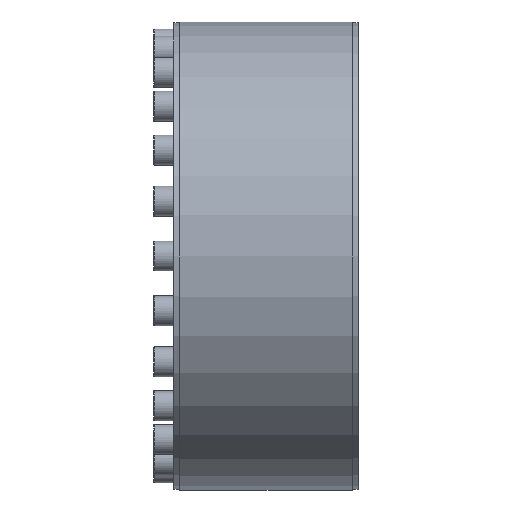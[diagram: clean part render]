
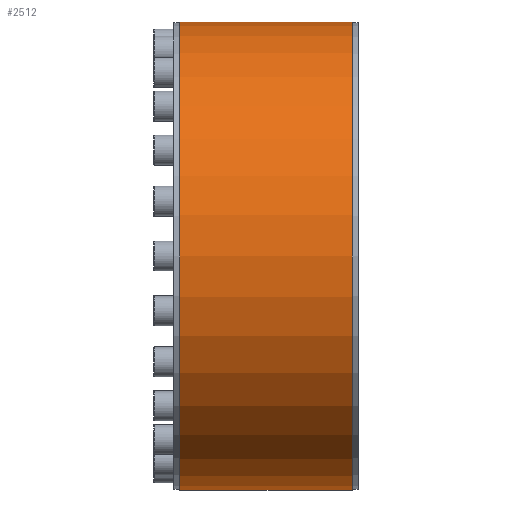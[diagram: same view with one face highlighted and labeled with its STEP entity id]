
A CAD part, left-side view. The second image highlights one B-rep face of the part: STEP entity #2512.
In plain terms, the highlighted cylindrical face has radius 257.5 mm (diameter 515 mm), a partial arc.
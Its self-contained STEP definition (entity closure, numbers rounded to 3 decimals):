
#322 = AXIS2_PLACEMENT_3D ( 'NONE', #6844, #4177, #7522 ) ;
#327 = CIRCLE ( 'NONE', #322, 257.5 ) ;
#416 = CARTESIAN_POINT ( 'NONE',  ( 0., 0., 257.5 ) ) ;
#528 = EDGE_CURVE ( 'NONE', #2561, #8163, #6578, .T. ) ;
#1306 = AXIS2_PLACEMENT_3D ( 'NONE', #2658, #5323, #7831 ) ;
#1638 = ORIENTED_EDGE ( 'NONE', *, *, #4217, .T. ) ;
#1695 = EDGE_CURVE ( 'NONE', #4064, #6006, #3780, .T. ) ;
#1787 = VECTOR ( 'NONE', #4824, 1000. ) ;
#2100 = EDGE_LOOP ( 'NONE', ( #4273, #1638, #2831, #4682 ) ) ;
#2330 = CYLINDRICAL_SURFACE ( 'NONE', #1306, 257.5 ) ;
#2367 = DIRECTION ( 'NONE',  ( 0., -1., 0. ) ) ;
#2435 = VECTOR ( 'NONE', #2367, 1000. ) ;
#2512 = ADVANCED_FACE ( 'NONE', ( #2627 ), #2330, .T. ) ;
#2561 = VERTEX_POINT ( 'NONE', #7890 ) ;
#2587 = CARTESIAN_POINT ( 'NONE',  ( 0., 0., -257.5 ) ) ;
#2627 = FACE_OUTER_BOUND ( 'NONE', #2100, .T. ) ;
#2658 = CARTESIAN_POINT ( 'NONE',  ( 0., 0., 0. ) ) ;
#2831 = ORIENTED_EDGE ( 'NONE', *, *, #528, .T. ) ;
#2917 = CARTESIAN_POINT ( 'NONE',  ( 0., -95., 0. ) ) ;
#2988 = CIRCLE ( 'NONE', #5666, 257.5 ) ;
#3384 = CARTESIAN_POINT ( 'NONE',  ( 0., 95., 257.5 ) ) ;
#3725 = CARTESIAN_POINT ( 'NONE',  ( 0., -95., 257.5 ) ) ;
#3780 = LINE ( 'NONE', #416, #2435 ) ;
#4064 = VERTEX_POINT ( 'NONE', #3384 ) ;
#4177 = DIRECTION ( 'NONE',  ( 0., -1., 0. ) ) ;
#4217 = EDGE_CURVE ( 'NONE', #4064, #2561, #327, .T. ) ;
#4273 = ORIENTED_EDGE ( 'NONE', *, *, #1695, .F. ) ;
#4682 = ORIENTED_EDGE ( 'NONE', *, *, #5525, .F. ) ;
#4824 = DIRECTION ( 'NONE',  ( 0., -1., 0. ) ) ;
#4952 = DIRECTION ( 'NONE',  ( 0., 0., -1. ) ) ;
#5323 = DIRECTION ( 'NONE',  ( 0., -1., 0. ) ) ;
#5525 = EDGE_CURVE ( 'NONE', #6006, #8163, #2988, .T. ) ;
#5666 = AXIS2_PLACEMENT_3D ( 'NONE', #2917, #6879, #4952 ) ;
#6006 = VERTEX_POINT ( 'NONE', #3725 ) ;
#6578 = LINE ( 'NONE', #2587, #1787 ) ;
#6844 = CARTESIAN_POINT ( 'NONE',  ( 0., 95., 0. ) ) ;
#6879 = DIRECTION ( 'NONE',  ( 0., -1., 0. ) ) ;
#7373 = CARTESIAN_POINT ( 'NONE',  ( 0., -95., -257.5 ) ) ;
#7522 = DIRECTION ( 'NONE',  ( 0., 0., -1. ) ) ;
#7831 = DIRECTION ( 'NONE',  ( 0., 0., -1. ) ) ;
#7890 = CARTESIAN_POINT ( 'NONE',  ( 0., 95., -257.5 ) ) ;
#8163 = VERTEX_POINT ( 'NONE', #7373 ) ;
